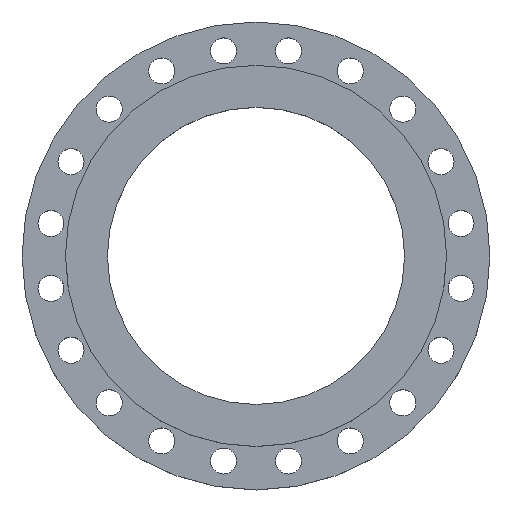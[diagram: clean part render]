
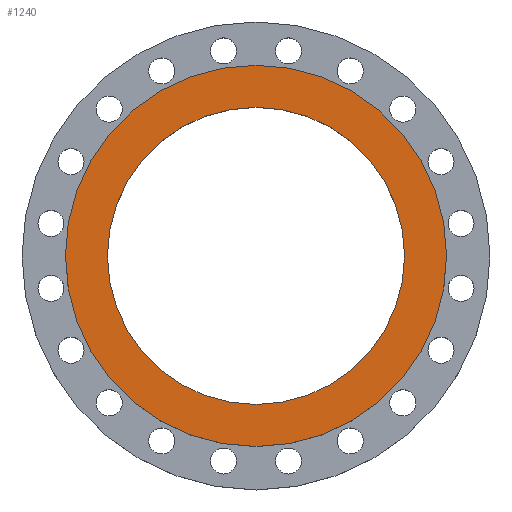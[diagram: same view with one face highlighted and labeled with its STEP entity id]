
A CAD part, top view. The second image highlights one B-rep face of the part: STEP entity #1240.
In plain terms, the highlighted planar face has unit normal (0, 0, 1).
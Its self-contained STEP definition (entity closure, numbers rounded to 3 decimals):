
#3 = CARTESIAN_POINT ( 'NONE',  ( 0., 0., 50. ) ) ;
#19 = CIRCLE ( 'NONE', #30, 307.5 ) ;
#30 = AXIS2_PLACEMENT_3D ( 'NONE', #517, #516, #515 ) ;
#129 = AXIS2_PLACEMENT_3D ( 'NONE', #3, #955, #1532 ) ;
#134 = EDGE_CURVE ( 'NONE', #1390, #1367, #19, .T. ) ;
#208 = DIRECTION ( 'NONE',  ( 0., 0., 1. ) ) ;
#217 = DIRECTION ( 'NONE',  ( 1., 0., 0. ) ) ;
#218 = DIRECTION ( 'NONE',  ( 0., 0., 1. ) ) ;
#220 = CARTESIAN_POINT ( 'NONE',  ( 0., 0., 50. ) ) ;
#441 = FACE_BOUND ( 'NONE', #1036, .T. ) ;
#515 = DIRECTION ( 'NONE',  ( 1., 0., 0. ) ) ;
#516 = DIRECTION ( 'NONE',  ( 0., 0., 1. ) ) ;
#517 = CARTESIAN_POINT ( 'NONE',  ( 0., 0., 50. ) ) ;
#644 = AXIS2_PLACEMENT_3D ( 'NONE', #1803, #208, #1143 ) ;
#742 = EDGE_CURVE ( 'NONE', #1408, #1726, #1565, .T. ) ;
#955 = DIRECTION ( 'NONE',  ( 0., 0., 1. ) ) ;
#1036 = EDGE_LOOP ( 'NONE', ( #1067, #1062 ) ) ;
#1053 = EDGE_LOOP ( 'NONE', ( #1069, #1068 ) ) ;
#1062 = ORIENTED_EDGE ( 'NONE', *, *, #1897, .F. ) ;
#1067 = ORIENTED_EDGE ( 'NONE', *, *, #742, .F. ) ;
#1068 = ORIENTED_EDGE ( 'NONE', *, *, #134, .T. ) ;
#1069 = ORIENTED_EDGE ( 'NONE', *, *, #1957, .T. ) ;
#1138 = CARTESIAN_POINT ( 'NONE',  ( 0., 0., 50. ) ) ;
#1143 = DIRECTION ( 'NONE',  ( 1., 0., 0. ) ) ;
#1199 = CARTESIAN_POINT ( 'NONE',  ( 307.5, 0., 50. ) ) ;
#1240 = ADVANCED_FACE ( 'NONE', ( #1915, #441 ), #1249, .T. ) ;
#1249 = PLANE ( 'NONE',  #644 ) ;
#1264 = CIRCLE ( 'NONE', #129, 307.5 ) ;
#1308 = CIRCLE ( 'NONE', #2057, 239.8 ) ;
#1367 = VERTEX_POINT ( 'NONE', #1199 ) ;
#1390 = VERTEX_POINT ( 'NONE', #1968 ) ;
#1408 = VERTEX_POINT ( 'NONE', #1605 ) ;
#1532 = DIRECTION ( 'NONE',  ( 1., 0., 0. ) ) ;
#1565 = CIRCLE ( 'NONE', #1566, 239.8 ) ;
#1566 = AXIS2_PLACEMENT_3D ( 'NONE', #220, #218, #217 ) ;
#1605 = CARTESIAN_POINT ( 'NONE',  ( 239.8, 0., 50. ) ) ;
#1659 = DIRECTION ( 'NONE',  ( 0., 0., 1. ) ) ;
#1726 = VERTEX_POINT ( 'NONE', #1960 ) ;
#1803 = CARTESIAN_POINT ( 'NONE',  ( 239.8, 0., 50. ) ) ;
#1897 = EDGE_CURVE ( 'NONE', #1726, #1408, #1308, .T. ) ;
#1915 = FACE_OUTER_BOUND ( 'NONE', #1053, .T. ) ;
#1957 = EDGE_CURVE ( 'NONE', #1367, #1390, #1264, .T. ) ;
#1960 = CARTESIAN_POINT ( 'NONE',  ( -239.8, 0., 50. ) ) ;
#1968 = CARTESIAN_POINT ( 'NONE',  ( -307.5, 0., 50. ) ) ;
#2057 = AXIS2_PLACEMENT_3D ( 'NONE', #1138, #1659, #2090 ) ;
#2090 = DIRECTION ( 'NONE',  ( 1., 0., 0. ) ) ;
